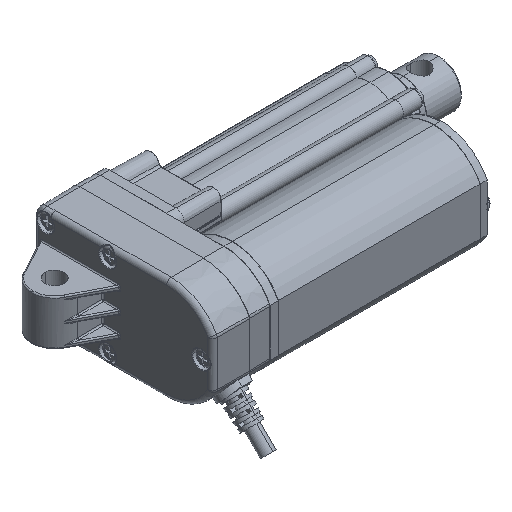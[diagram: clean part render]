
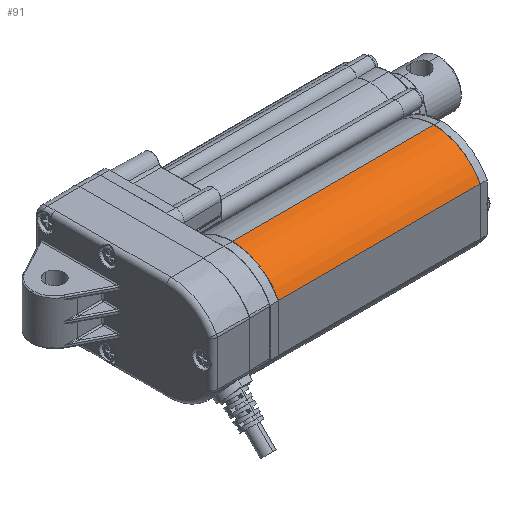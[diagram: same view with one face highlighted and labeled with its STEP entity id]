
A CAD part, isometric view. The second image highlights one B-rep face of the part: STEP entity #91.
In plain terms, the highlighted cylindrical face has radius 22.5 mm (diameter 45 mm), a partial arc.
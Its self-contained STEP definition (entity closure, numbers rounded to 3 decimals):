
#91=ADVANCED_FACE('',(#851),#852,.T.);
#851=FACE_OUTER_BOUND('',#2363,.T.);
#852=CYLINDRICAL_SURFACE('',#2364,22.5);
#2363=EDGE_LOOP('',(#7247,#7248,#7249,#7250));
#2364=AXIS2_PLACEMENT_3D('',#7251,#7252,#7253);
#7247=ORIENTED_EDGE('',*,*,#12915,.F.);
#7248=ORIENTED_EDGE('',*,*,#12916,.T.);
#7249=ORIENTED_EDGE('',*,*,#12917,.T.);
#7250=ORIENTED_EDGE('',*,*,#12918,.T.);
#7251=CARTESIAN_POINT('',(99.995,-37.35,0.));
#7252=DIRECTION('',(1.0,0.,0.));
#7253=DIRECTION('',(0.,0.,-1.0));
#12915=EDGE_CURVE('',#14901,#14902,#14903,.T.);
#12916=EDGE_CURVE('',#14901,#14904,#14905,.T.);
#12917=EDGE_CURVE('',#14904,#14906,#14907,.T.);
#12918=EDGE_CURVE('',#14906,#14902,#14908,.T.);
#14901=VERTEX_POINT('',#18307);
#14902=VERTEX_POINT('',#18308);
#14903=LINE('',#18309,#18310);
#14904=VERTEX_POINT('',#18311);
#14905=CIRCLE('',#18312,22.5);
#14906=VERTEX_POINT('',#18313);
#14907=LINE('',#18314,#18315);
#14908=CIRCLE('',#18316,22.5);
#18307=CARTESIAN_POINT('',(12.595,-37.35,22.5));
#18308=CARTESIAN_POINT('',(99.895,-37.35,22.5));
#18309=CARTESIAN_POINT('',(56.245,-37.35,22.5));
#18310=VECTOR('',#27961,1.0);
#18311=CARTESIAN_POINT('',(12.595,-57.35,10.308));
#18312=AXIS2_PLACEMENT_3D('',#27962,#27963,#27964);
#18313=CARTESIAN_POINT('',(99.895,-57.35,10.308));
#18314=CARTESIAN_POINT('',(99.995,-57.35,10.308));
#18315=VECTOR('',#27965,1000.0);
#18316=AXIS2_PLACEMENT_3D('',#27966,#27967,#27968);
#27961=DIRECTION('',(1.0,0.,0.));
#27962=CARTESIAN_POINT('',(12.595,-37.35,0.));
#27963=DIRECTION('',(1.0,0.,0.));
#27964=DIRECTION('',(0.,0.,-1.0));
#27965=DIRECTION('',(1.0,0.,0.));
#27966=CARTESIAN_POINT('',(99.895,-37.35,0.));
#27967=DIRECTION('',(-1.0,0.,0.));
#27968=DIRECTION('',(0.,0.,-1.0));
